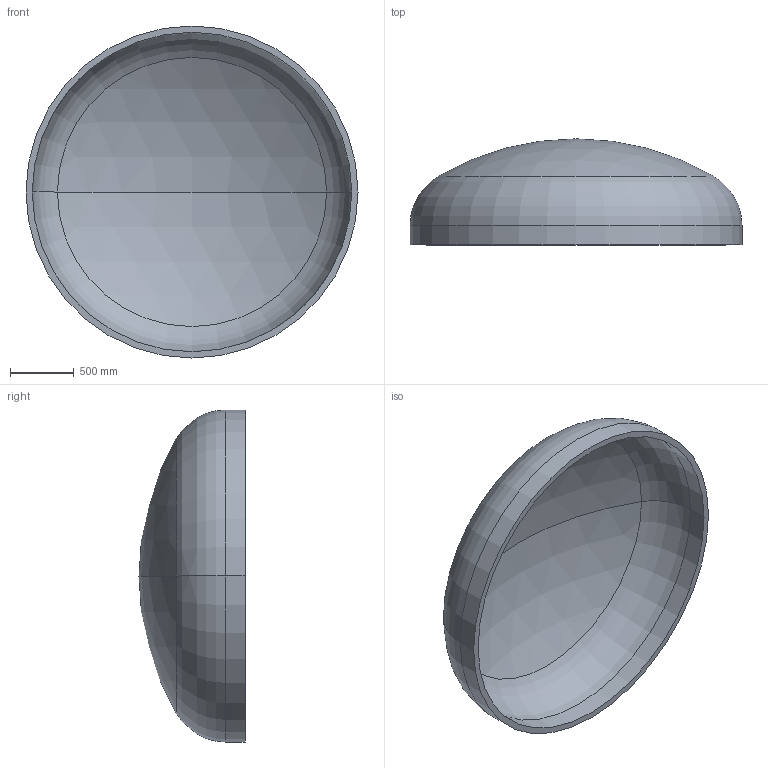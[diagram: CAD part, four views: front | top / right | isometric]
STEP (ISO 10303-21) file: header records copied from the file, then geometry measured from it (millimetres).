
FILE_DESCRIPTION (( 'STEP AP203' ), '1' );
FILE_NAME ('DIN 28013 Korbbogenform_-_Boden DIN 28013 - 2600 x 150 - I - s=49.step', '2016-07-01T16:15:29', ( '' ), ( '' ), 'SwSTEP 2.0', 'SolidWorks 2013', '' );
FILE_SCHEMA (( 'CONFIG_CONTROL_DESIGN' ));
Length unit declared in the file: millimetre
Products named in the file (1): DIN 28013 Korbbogenform_-_Boden DIN 28013 - 2600 x 150 - I - s=49
Bounding box: 2600 x 830.48 x 2600 mm (x, y, z)
Volume: 410309468.6 mm3; surface area: 17145044.4 mm2
Topology: 1 solids, 1 shells, 13 faces, 24 edges, 14 vertices
Faces by surface type: torus 4, cylinder 4, sphere 4, plane 1
Entity records: 407 total; most frequent: DIRECTION 72, CARTESIAN_POINT 52, ORIENTED_EDGE 48, AXIS2_PLACEMENT_3D 34, EDGE_CURVE 24, CIRCLE 20, EDGE_LOOP 14, VERTEX_POINT 14
